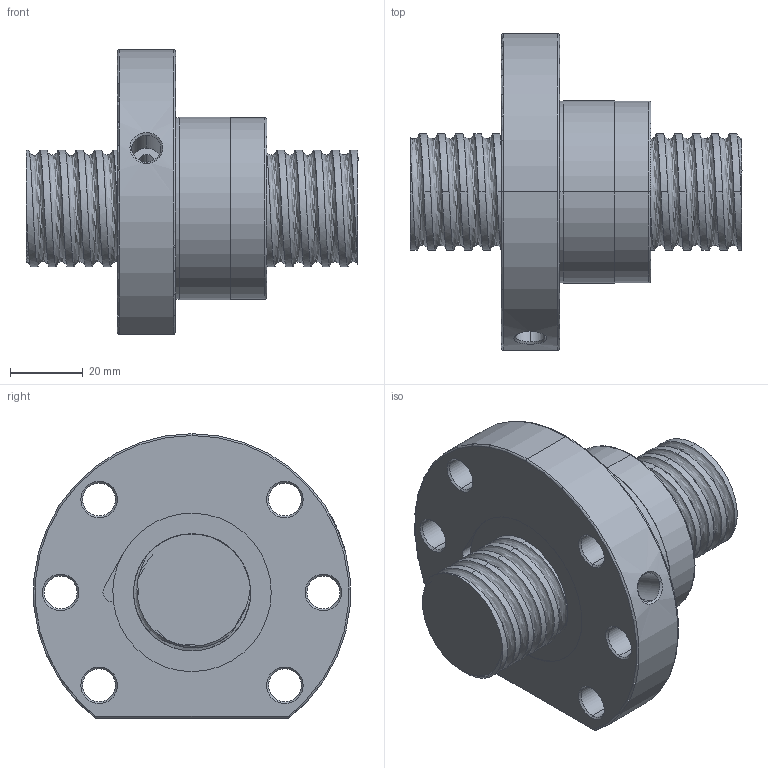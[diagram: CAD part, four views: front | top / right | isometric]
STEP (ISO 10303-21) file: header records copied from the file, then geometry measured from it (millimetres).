
FILE_DESCRIPTION (( 'STEP AP214' ), '1' );
FILE_NAME ('FSDC03205T4-B-B.STEP', '2010-06-25T11:45:05', ( 'XPAUTO' ), ( 'XPAUTO' ), 'SwSTEP 2.0', 'SolidWorks 2007', '' );
FILE_SCHEMA (( 'AUTOMOTIVE_DESIGN' ));
Length unit declared in the file: millimetre
Products named in the file (3): FSDC03205T4-B-B; FSDC03205T4-B-B.sldasm-Part-2_預設; FSDC03205T4-B-B.sldasm-Part-1_預設
Assembly tree (2 placements, depth 2):
  FSDC03205T4-B-B
    FSDC03205T4-B-B.sldasm-Part-1_預設
    FSDC03205T4-B-B.sldasm-Part-2_預設
Bounding box: 91 x 86.73 x 78 mm (x, y, z)
Volume: 166307.6 mm3; surface area: 37409.8 mm2
Topology: 2 solids, 2 shells, 130 faces, 327 edges, 206 vertices
Faces by surface type: cylinder 77, cone 24, plane 19, bspline 5, torus 5
Entity records: 26338 total; most frequent: CARTESIAN_POINT 23242, ORIENTED_EDGE 654, DIRECTION 591, EDGE_CURVE 327, AXIS2_PLACEMENT_3D 239, VERTEX_POINT 206, EDGE_LOOP 151, ADVANCED_FACE 130
